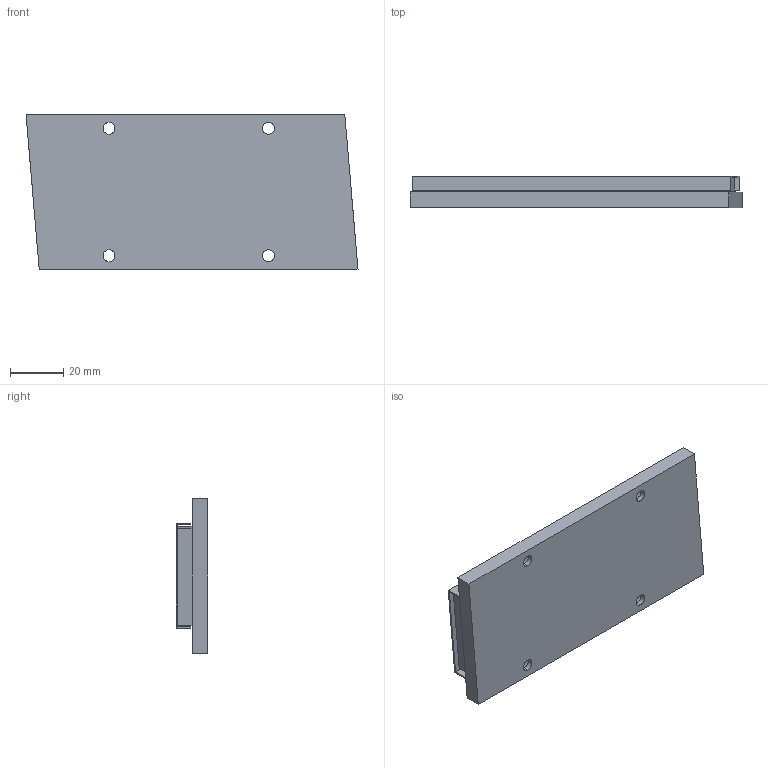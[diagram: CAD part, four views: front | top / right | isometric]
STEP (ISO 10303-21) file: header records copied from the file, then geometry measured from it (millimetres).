
FILE_DESCRIPTION (( 'STEP AP203' ), '1' );
FILE_NAME ('HM12SF01D0A1_LMF0S1-²Õ.STEP', '2008-03-21T10:36:29', ( 'hiwin' ), ( 'hiwin' ), 'SwSTEP 2.0', 'SolidWorks 2006303', '' );
FILE_SCHEMA (( 'CONFIG_CONTROL_DESIGN' ));
Length unit declared in the file: millimetre
Products named in the file (3): HM12SF01D0A1_LMF0S1-蓋; HM12SF01D0A1_LMF0S1-組; HM12SF01D0A1_LMF0S1
Assembly tree (2 placements, depth 2):
  HM12SF01D0A1_LMF0S1-組
    HM12SF01D0A1_LMF0S1-蓋
    HM12SF01D0A1_LMF0S1
Bounding box: 124.97 x 11.8 x 58 mm (x, y, z)
Volume: 60441.7 mm3; surface area: 32510.7 mm2
Topology: 2 solids, 2 shells, 76 faces, 180 edges, 120 vertices
Faces by surface type: plane 60, cylinder 16
Entity records: 2497 total; most frequent: CARTESIAN_POINT 381, DIRECTION 374, ORIENTED_EDGE 360, EDGE_CURVE 180, VECTOR 148, LINE 148, VERTEX_POINT 120, AXIS2_PLACEMENT_3D 113
